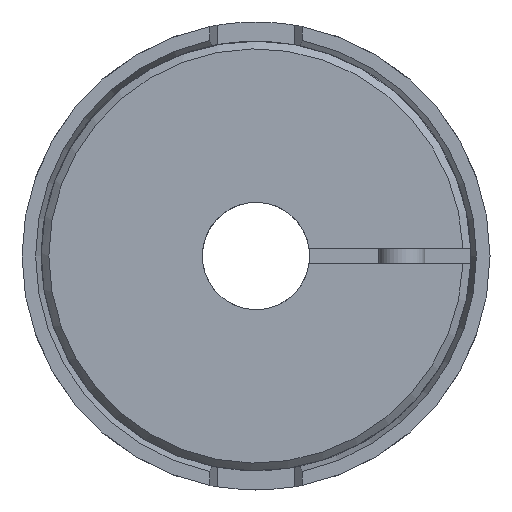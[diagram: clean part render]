
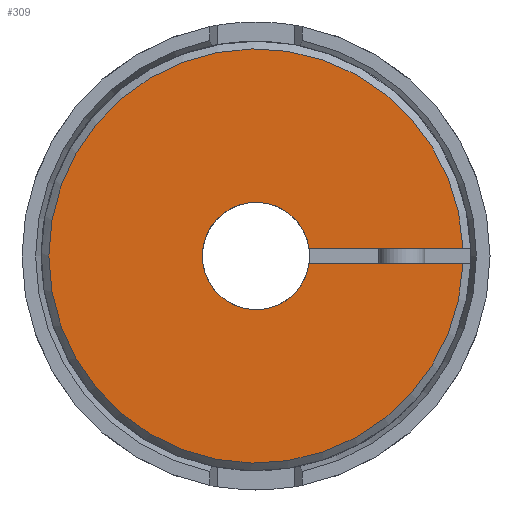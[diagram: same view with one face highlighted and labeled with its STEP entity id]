
A CAD part, left-side view. The second image highlights one B-rep face of the part: STEP entity #309.
In plain terms, the highlighted planar face has unit normal (-1, 0, 0).
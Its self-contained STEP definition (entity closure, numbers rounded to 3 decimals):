
#309 = ADVANCED_FACE( '', ( #716 ), #717, .T. );
#716 = FACE_OUTER_BOUND( '', #1201, .T. );
#717 = PLANE( '', #1202 );
#1201 = EDGE_LOOP( '', ( #2021, #2022, #2023, #2024 ) );
#1202 = AXIS2_PLACEMENT_3D( '', #2025, #2026, #2027 );
#2021 = ORIENTED_EDGE( '', *, *, #2680, .F. );
#2022 = ORIENTED_EDGE( '', *, *, #2761, .T. );
#2023 = ORIENTED_EDGE( '', *, *, #2781, .F. );
#2024 = ORIENTED_EDGE( '', *, *, #2782, .T. );
#2025 = CARTESIAN_POINT( '', ( -52.501, 0., 3.5 ) );
#2026 = DIRECTION( '', ( -1., 0., 0. ) );
#2027 = DIRECTION( '', ( 0., 0., 1. ) );
#2680 = EDGE_CURVE( '', #3213, #3215, #3216, .T. );
#2761 = EDGE_CURVE( '', #3213, #3330, #3332, .F. );
#2781 = EDGE_CURVE( '', #3359, #3330, #3360, .T. );
#2782 = EDGE_CURVE( '', #3359, #3215, #3361, .T. );
#3213 = VERTEX_POINT( '', #4163 );
#3215 = VERTEX_POINT( '', #4166 );
#3216 = LINE( '', #4167, #4168 );
#3330 = VERTEX_POINT( '', #4371 );
#3332 = CIRCLE( '', #4374, 7. );
#3359 = VERTEX_POINT( '', #4405 );
#3360 = LINE( '', #4406, #4407 );
#3361 = CIRCLE( '', #4408, 27. );
#4163 = CARTESIAN_POINT( '', ( -52.501, -6.928, -1. ) );
#4166 = CARTESIAN_POINT( '', ( -52.501, -26.981, -1. ) );
#4167 = CARTESIAN_POINT( '', ( -52.501, -2., -1. ) );
#4168 = VECTOR( '', #4885, 1000. );
#4371 = CARTESIAN_POINT( '', ( -52.501, -6.928, 1. ) );
#4374 = AXIS2_PLACEMENT_3D( '', #5006, #5007, #5008 );
#4405 = CARTESIAN_POINT( '', ( -52.501, -26.981, 1. ) );
#4406 = CARTESIAN_POINT( '', ( -52.501, -30., 1. ) );
#4407 = VECTOR( '', #5043, 1000. );
#4408 = AXIS2_PLACEMENT_3D( '', #5044, #5045, #5046 );
#4885 = DIRECTION( '', ( 0., -1., 0. ) );
#5006 = CARTESIAN_POINT( '', ( -52.501, 0., 0. ) );
#5007 = DIRECTION( '', ( -1., 0., 0. ) );
#5008 = DIRECTION( '', ( 0., 0., 1. ) );
#5043 = DIRECTION( '', ( 0., 1., 0. ) );
#5044 = CARTESIAN_POINT( '', ( -52.501, 0., 0. ) );
#5045 = DIRECTION( '', ( -1., 0., 0. ) );
#5046 = DIRECTION( '', ( 0., 0., 1. ) );
